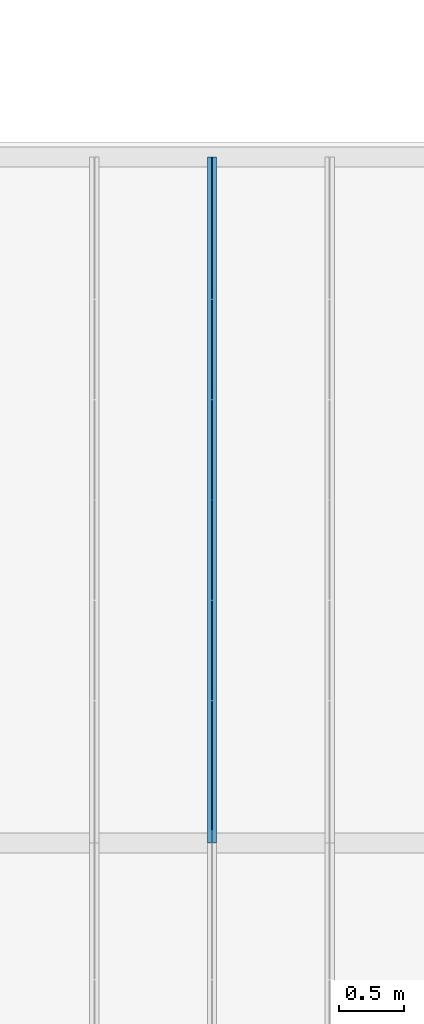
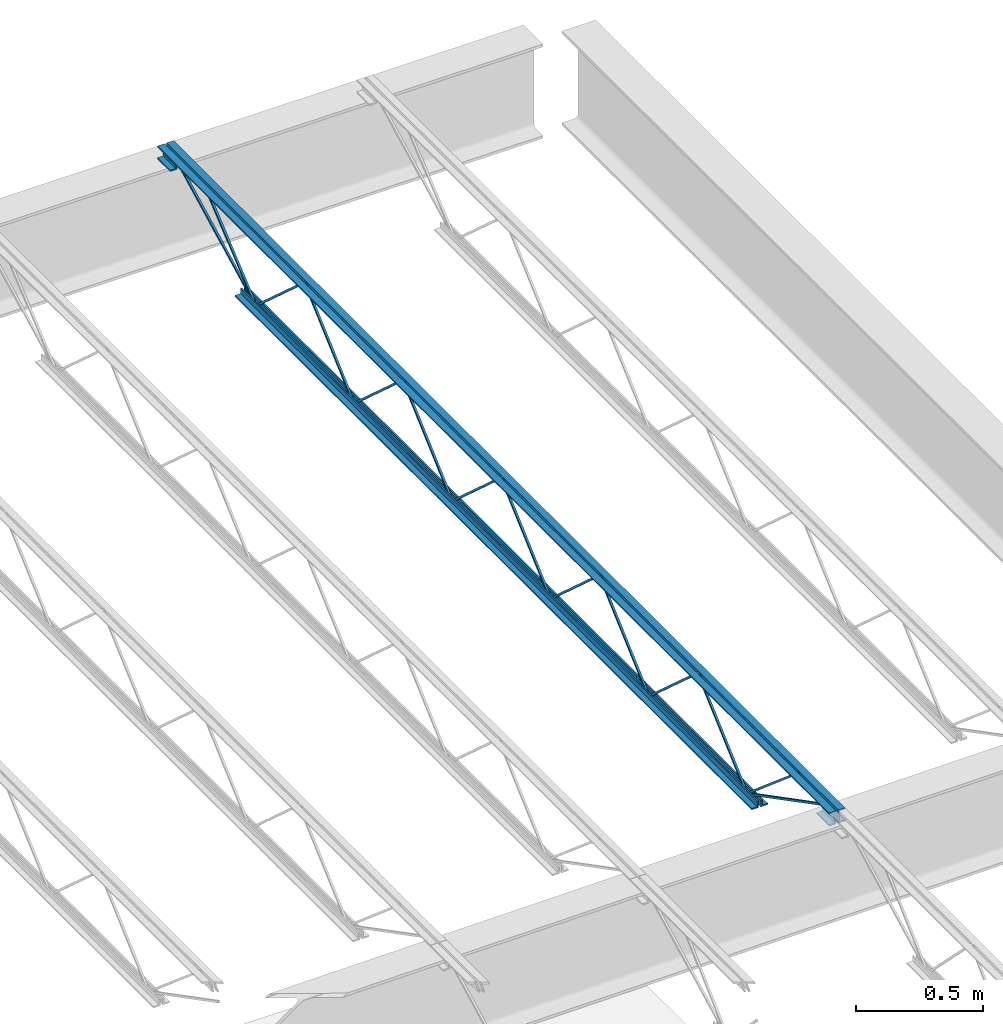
# One storey, part 74 of 75: 1 beam.
"""IFC2X3 building model written with IfcOpenShell, lengths in metres."""

from ifc_helpers import new_model, entity, si_unit, converted_unit, frame, origin, place, context, project, spatial, face_set, surface_model, element, save


model = new_model("IFC2X3")

# Units and contexts
model_context = context("Model", 3, precision=1e-09, world=origin())
plan_context = context("Plan", 3, precision=1e-09, world=origin())
ifc_project = project(units=[si_unit("LENGTHUNIT", "METRE"), si_unit("AREAUNIT", "SQUARE_METRE"), si_unit("VOLUMEUNIT", "CUBIC_METRE"), converted_unit("PLANEANGLEUNIT", "DEGREE", entity("IfcRatioMeasure", 0.01745329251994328), si_unit("PLANEANGLEUNIT", "RADIAN"), dimensions=[0, 0, 0, 0, 0, 0, 0]), si_unit("TIMEUNIT", "SECOND")], contexts=[model_context, plan_context])

# Site, building, storey
site_placement = place(None, origin())
site = spatial("IfcSite", under=ifc_project, at=site_placement, Name="Default", CompositionType="ELEMENT")
building_placement = place(site_placement, origin())
building = spatial("IfcBuilding", under=site, at=building_placement, CompositionType="ELEMENT")
storey_placement = place(building_placement, origin())
storey = spatial("IfcBuildingStorey", under=building, at=storey_placement, Name="First Floor", CompositionType="ELEMENT", Elevation=-3.531500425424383e-13)

# Beam
beam_placement = place(storey_placement, frame((-1.856749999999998, 44.78049999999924, 4.112000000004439), z_axis=(0.0, 0.0, 1.0), x_axis=(-1.0, 0.0, 0.0)))
element("IfcBeam", 1, at=beam_placement, inside=storey, Name="M_K-Series Bar Joist-Rod Web:14K1:14K1", ObjectType="M_K-Series Bar Joist-Rod Web:14K1", context=model_context, shape_type="SurfaceModel", body=[
    surface_model("IfcFaceBasedSurfaceModel", [(-0.0320000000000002, -2.266000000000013, 0.01110000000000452), (-0.04150000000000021, -2.266000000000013, 0.01110000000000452), (-0.04150000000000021, -2.266000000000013, 0.001600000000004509), (-0.0320000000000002, -2.266000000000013, 0.001600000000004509), (-0.04150000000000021, -2.264645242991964, 0.01110000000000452), (-0.0320000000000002, -2.264645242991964, 0.01110000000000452), (-0.04150000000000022, -2.26100475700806, 0.001600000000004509), (-0.04150000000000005, -1.878854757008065, 0.3449000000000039), (-0.04150000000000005, -1.876145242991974, 0.3449000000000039), (-0.04150000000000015, -1.493995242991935, 0.001600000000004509), (-0.04150000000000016, -1.489000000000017, 0.001600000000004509), (-0.04150000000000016, -1.489000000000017, 0.01110000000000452), (-0.04150000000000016, -1.490354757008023, 0.01110000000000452), (-0.04150000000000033, -1.872504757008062, 0.3544000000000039), (-0.04150000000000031, -1.882495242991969, 0.3544000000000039), (-0.03200000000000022, -2.26100475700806, 0.001600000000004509), (-0.03200000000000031, -1.878854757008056, 0.3449000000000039), (-0.03200000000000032, -1.876145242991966, 0.3449000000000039), (-0.03200000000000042, -1.493995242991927, 0.001600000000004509), (-0.03200000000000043, -1.489000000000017, 0.001600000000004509), (-0.03200000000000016, -1.489000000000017, 0.01110000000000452), (-0.03200000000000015, -1.490354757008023, 0.01110000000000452), (-0.03200000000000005, -1.872504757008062, 0.3544000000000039), (-0.03200000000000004, -1.882495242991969, 0.3544000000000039), (-0.03199999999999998, -3.04300000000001, 0.01110000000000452), (-0.04149999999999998, -3.04300000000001, 0.01110000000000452), (-0.04149999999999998, -3.04300000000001, 0.001600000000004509), (-0.03199999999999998, -3.04300000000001, 0.001600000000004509), (-0.04149999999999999, -3.041645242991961, 0.01110000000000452), (-0.03199999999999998, -3.041645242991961, 0.01110000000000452), (-0.04149999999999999, -3.038004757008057, 0.001600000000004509), (-0.04150000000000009, -2.655854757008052, 0.3449000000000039), (-0.0415000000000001, -2.653145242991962, 0.3449000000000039), (-0.0415000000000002, -2.270995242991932, 0.001600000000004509), (-0.04149999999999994, -2.266000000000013, 0.01110000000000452), (-0.04149999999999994, -2.26735475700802, 0.01110000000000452), (-0.04150000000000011, -2.649504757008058, 0.3544000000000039), (-0.04150000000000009, -2.659495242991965, 0.3544000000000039), (-0.03199999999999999, -3.038004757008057, 0.001600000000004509), (-0.03200000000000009, -2.655854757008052, 0.3449000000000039), (-0.03200000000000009, -2.653145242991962, 0.3449000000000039), (-0.0320000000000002, -2.270995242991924, 0.001600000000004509), (-0.0320000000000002, -2.26735475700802, 0.01110000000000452), (-0.0320000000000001, -2.649504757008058, 0.3544000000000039), (-0.03200000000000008, -2.659495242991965, 0.3544000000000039), (-0.03200000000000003, -3.820000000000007, 0.01110000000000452), (-0.04150000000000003, -3.820000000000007, 0.01110000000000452), (-0.04150000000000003, -3.820000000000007, 0.001600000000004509), (-0.03200000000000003, -3.820000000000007, 0.001600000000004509), (-0.04150000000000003, -3.818645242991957, 0.01110000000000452), (-0.03200000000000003, -3.818645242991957, 0.01110000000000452), (-0.04150000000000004, -3.815004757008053, 0.001600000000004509), (-0.04150000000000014, -3.432854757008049, 0.3449000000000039), (-0.04150000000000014, -3.430145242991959, 0.3449000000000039), (-0.04149999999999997, -3.04799524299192, 0.001600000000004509), (-0.04149999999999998, -3.043000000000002, 0.001600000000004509), (-0.04149999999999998, -3.044354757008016, 0.01110000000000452), (-0.04150000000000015, -3.426504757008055, 0.3544000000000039), (-0.04150000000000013, -3.436495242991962, 0.3544000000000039), (-0.03200000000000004, -3.815004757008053, 0.001600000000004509), (-0.03200000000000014, -3.432854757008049, 0.3449000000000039), (-0.03200000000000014, -3.430145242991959, 0.3449000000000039), (-0.03200000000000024, -3.04799524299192, 0.001600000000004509), (-0.03200000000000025, -3.04300000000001, 0.001600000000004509), (-0.03199999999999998, -3.043000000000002, 0.01110000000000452), (-0.03199999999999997, -3.044354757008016, 0.01110000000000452), (-0.03200000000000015, -3.426504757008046, 0.3544000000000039), (-0.03200000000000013, -3.436495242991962, 0.3544000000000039), (-0.03200000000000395, -1.489000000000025, 0.01109999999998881), (-0.04150000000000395, -1.489000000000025, 0.01109999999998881), (-0.04150000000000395, -1.489000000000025, 0.001599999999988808), (-0.03200000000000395, -1.489000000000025, 0.001599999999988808), (-0.04150000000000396, -1.487645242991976, 0.01109999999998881), (-0.03200000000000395, -1.487645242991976, 0.01109999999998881), (-0.04150000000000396, -1.484004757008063, 0.001599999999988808), (-0.04150000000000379, -1.101854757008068, 0.3448999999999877), (-0.0415000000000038, -1.099145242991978, 0.3448999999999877), (-0.0415000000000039, -0.7169952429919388, 0.001599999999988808), (-0.04150000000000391, -0.7120000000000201, 0.001599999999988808), (-0.04150000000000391, -0.7120000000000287, 0.01109999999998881), (-0.04150000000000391, -0.7133547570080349, 0.01109999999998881), (-0.04150000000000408, -1.095504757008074, 0.3543999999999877), (-0.04150000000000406, -1.10549524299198, 0.3543999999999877), (-0.03200000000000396, -1.484004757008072, 0.001599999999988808), (-0.03200000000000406, -1.101854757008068, 0.3448999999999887), (-0.03200000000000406, -1.099145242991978, 0.3448999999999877), (-0.03200000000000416, -0.7169952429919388, 0.001599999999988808), (-0.03200000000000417, -0.7120000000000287, 0.001599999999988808), (-0.0320000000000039, -0.7120000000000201, 0.01109999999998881), (-0.0320000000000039, -0.7133547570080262, 0.01109999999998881), (-0.0320000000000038, -1.095504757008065, 0.3543999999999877), (-0.03200000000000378, -1.105495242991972, 0.3543999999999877), (-0.03200000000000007, -4.597000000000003, 0.01110000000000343), (-0.04150000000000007, -4.597000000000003, 0.01110000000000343), (-0.04150000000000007, -4.597000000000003, 0.001600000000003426), (-0.03200000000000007, -4.597000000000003, 0.001600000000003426), (-0.04150000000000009, -4.595645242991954, 0.01110000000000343), (-0.03200000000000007, -4.595645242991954, 0.01110000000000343), (-0.04150000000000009, -4.592004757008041, 0.001600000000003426), (-0.04150000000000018, -4.209854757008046, 0.3449000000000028), (-0.0415000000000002, -4.207145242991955, 0.3449000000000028), (-0.04150000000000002, -3.824995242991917, 0.001600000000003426), (-0.04150000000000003, -3.819999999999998, 0.001600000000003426), (-0.04150000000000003, -3.820000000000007, 0.01110000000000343), (-0.04150000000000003, -3.821354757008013, 0.01110000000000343), (-0.0415000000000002, -4.203504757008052, 0.3544000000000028), (-0.04150000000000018, -4.213495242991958, 0.3544000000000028), (-0.03200000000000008, -4.592004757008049, 0.001600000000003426), (-0.03200000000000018, -4.209854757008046, 0.3449000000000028), (-0.03200000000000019, -4.207145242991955, 0.3449000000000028), (-0.03200000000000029, -3.824995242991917, 0.001600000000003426), (-0.0320000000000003, -3.820000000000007, 0.001600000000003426), (-0.03200000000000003, -3.819999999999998, 0.01110000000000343), (-0.03200000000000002, -3.821354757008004, 0.01110000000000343), (-0.0320000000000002, -4.203504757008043, 0.3544000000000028), (-0.03200000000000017, -4.213495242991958, 0.3544000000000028), (-0.04150000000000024, 0.0, 0.3560000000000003), (-0.07350000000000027, 0.0, 0.3560000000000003), (-0.07350000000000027, 0.0, 0.3494999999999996), (-0.04800000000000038, 0.0, 0.3494999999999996), (-0.04800000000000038, 0.0, 0.3239999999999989), (-0.04150000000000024, 0.0, 0.3239999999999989), (-0.03200000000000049, 0.0, 0.3560000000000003), (-0.03200000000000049, 0.0, 0.3239999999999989), (-0.02550000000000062, 0.0, 0.3239999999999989), (-0.02550000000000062, 0.0, 0.3494999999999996), (0.0, 0.0, 0.3494999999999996), (0.0, 0.0, 0.3560000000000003), (-0.04149999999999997, -5.309000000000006, 0.3560000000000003), (-0.0735, -5.309000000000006, 0.3560000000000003), (-0.0735, -5.309000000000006, 0.3494999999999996), (-0.04800000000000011, -5.309000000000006, 0.3494999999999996), (-0.04800000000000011, -5.309000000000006, 0.3239999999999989), (-0.04149999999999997, -5.309000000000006, 0.3239999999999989), (-0.03200000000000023, -5.309000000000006, 0.3560000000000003), (-0.03200000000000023, -5.309000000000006, 0.3239999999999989), (-0.02550000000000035, -5.309000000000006, 0.3239999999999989), (-0.02550000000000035, -5.309000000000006, 0.3494999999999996), (0.0, -5.309000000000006, 0.3494999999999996), (0.0, -5.309000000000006, 0.3560000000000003), (-0.0320000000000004, -5.20900000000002, 0.2924999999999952), (0.0, -5.20900000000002, 0.2924999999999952), (0.0, -5.20900000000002, 0.2989999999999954), (-0.02550000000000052, -5.20900000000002, 0.2989999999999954), (-0.02550000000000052, -5.20900000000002, 0.3239999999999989), (-0.0320000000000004, -5.20900000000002, 0.3239999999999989), (-0.07350000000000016, -5.20900000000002, 0.2924999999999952), (-0.04150000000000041, -5.20900000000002, 0.2924999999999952), (-0.04150000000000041, -5.20900000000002, 0.3239999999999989), (-0.04800000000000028, -5.20900000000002, 0.3239999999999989), (-0.04800000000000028, -5.20900000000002, 0.2989999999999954), (-0.07350000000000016, -5.20900000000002, 0.2989999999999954), (-0.03200000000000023, -5.309000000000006, 0.2924999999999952), (0.0, -5.309000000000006, 0.2924999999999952), (0.0, -5.309000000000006, 0.2989999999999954), (-0.02550000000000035, -5.309000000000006, 0.2989999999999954), (-0.0735, -5.309000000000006, 0.2924999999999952), (-0.04150000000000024, -5.309000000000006, 0.2924999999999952), (-0.04150000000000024, -5.309000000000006, 0.3239999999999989), (-0.04800000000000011, -5.309000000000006, 0.2989999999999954), (-0.0735, -5.309000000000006, 0.2989999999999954), (-0.04150000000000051, 0.0, 0.2924999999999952), (-0.04150000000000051, 0.0, 0.3239999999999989), (-0.04800000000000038, 0.0, 0.2989999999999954), (-0.07350000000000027, 0.0, 0.2989999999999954), (-0.07350000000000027, 0.0, 0.2924999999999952), (-0.03200000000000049, 0.0, 0.2924999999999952), (0.0, 0.0, 0.2924999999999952), (0.0, 0.0, 0.2989999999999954), (-0.02550000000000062, 0.0, 0.2989999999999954), (-0.04150000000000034, -0.1000000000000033, 0.2924999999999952), (-0.04150000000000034, -0.1000000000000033, 0.3239999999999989), (-0.04800000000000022, -0.1000000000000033, 0.3239999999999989), (-0.04800000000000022, -0.1000000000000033, 0.2989999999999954), (-0.0735000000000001, -0.1000000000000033, 0.2989999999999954), (-0.0735000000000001, -0.1000000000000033, 0.2924999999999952), (-0.03200000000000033, -0.1000000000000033, 0.2924999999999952), (0.0, -0.1000000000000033, 0.2924999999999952), (0.0, -0.1000000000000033, 0.2989999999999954), (-0.02550000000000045, -0.1000000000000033, 0.2989999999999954), (-0.02550000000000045, -0.1000000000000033, 0.3239999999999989), (-0.03200000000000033, -0.1000000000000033, 0.3239999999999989), (-0.04150000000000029, -0.6119999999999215, 0.0), (-0.04150000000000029, -0.6119999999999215, 0.03199999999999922), (-0.04800000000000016, -0.6119999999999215, 0.03199999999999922), (-0.04800000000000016, -0.6119999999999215, 0.006500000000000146), (-0.07350000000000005, -0.6119999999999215, 0.006500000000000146), (-0.07350000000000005, -0.6119999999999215, 0.0), (-0.03200000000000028, -0.6119999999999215, 0.0), (0.0, -0.6119999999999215, 0.0), (0.0, -0.6119999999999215, 0.006500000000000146), (-0.0255000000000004, -0.6119999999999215, 0.006500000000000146), (-0.0255000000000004, -0.6119999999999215, 0.03199999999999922), (-0.03200000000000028, -0.6119999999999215, 0.03199999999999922), (-0.04150000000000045, -4.696999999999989, 0.0), (-0.04150000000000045, -4.696999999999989, 0.03199999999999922), (-0.04800000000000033, -4.696999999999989, 0.03199999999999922), (-0.04800000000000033, -4.696999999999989, 0.006500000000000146), (-0.07350000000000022, -4.696999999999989, 0.006500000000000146), (-0.07350000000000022, -4.696999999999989, 0.0), (-0.03200000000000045, -4.696999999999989, 0.0), (0.0, -4.696999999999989, 0.0), (0.0, -4.696999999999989, 0.006500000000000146), (-0.02550000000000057, -4.696999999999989, 0.006500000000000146), (-0.02550000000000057, -4.696999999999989, 0.03199999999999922), (-0.03200000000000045, -4.696999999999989, 0.03199999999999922), (-0.03200000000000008, -4.594811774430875, 0.0105659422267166), (-0.04150000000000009, -4.594811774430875, 0.0105659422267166), (-0.04150000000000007, -4.599188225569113, 0.002134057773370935), (-0.03200000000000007, -4.599188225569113, 0.002134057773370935), (-0.03200000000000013, -5.207840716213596, 0.32875), (-0.03199999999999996, -5.308999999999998, 0.32875), (-0.03199999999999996, -5.308999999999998, 0.31925), (-0.03200000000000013, -5.210159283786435, 0.31925), (-0.04150000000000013, -5.210159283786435, 0.31925), (-0.04150000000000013, -5.207840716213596, 0.32875), (-0.04149999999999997, -5.308999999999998, 0.32875), (-0.04149999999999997, -5.309000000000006, 0.31925), (-0.0320000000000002, -5.005457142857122, 0.3417000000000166), (-0.0415000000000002, -5.005457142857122, 0.3417000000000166), (-0.0415000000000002, -5.005457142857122, 0.3322000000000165), (-0.0320000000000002, -5.005457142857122, 0.3322000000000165), (-0.04150000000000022, -4.991034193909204, 0.3417000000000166), (-0.03200000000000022, -4.991034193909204, 0.3417000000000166), (-0.04150000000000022, -4.994480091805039, 0.3322000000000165), (-0.04150000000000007, -4.600045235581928, 0.002704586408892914), (-0.04150000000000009, -4.593954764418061, 0.00999541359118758), (-0.03200000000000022, -4.994480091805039, 0.3322000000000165), (-0.03200000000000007, -4.600045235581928, 0.002704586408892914), (-0.03200000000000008, -4.593954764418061, 0.009995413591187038), (-0.03200000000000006, -0.09781177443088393, 0.3197840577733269), (-0.03200000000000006, -0.1021882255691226, 0.3282159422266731), (-0.04150000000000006, -0.1021882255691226, 0.3282159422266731), (-0.04150000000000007, -0.09781177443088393, 0.3197840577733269), (-0.03200000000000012, -0.7098117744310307, 0.002134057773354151), (-0.03200000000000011, -0.7141882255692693, 0.01056594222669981), (-0.04150000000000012, -0.7141882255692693, 0.01056594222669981), (-0.04150000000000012, -0.7098117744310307, 0.002134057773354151), (-0.03199999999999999, -0.3059055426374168, 0.3460340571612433), (-0.03199999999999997, -0.3120658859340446, 0.3532659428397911), (-0.04149999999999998, -0.3120658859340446, 0.3532659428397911), (-0.04149999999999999, -0.3059055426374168, 0.3460340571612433), (-0.03200000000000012, -0.7089198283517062, 0.002734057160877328), (-0.03200000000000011, -0.7150801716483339, 0.009965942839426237), (-0.04150000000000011, -0.7150801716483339, 0.009965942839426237), (-0.04150000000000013, -0.7089198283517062, 0.002734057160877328)], [face_set([[[0, 1, 2, 3]], [[1, 4, 5, 0]], [[2, 6, 7, 8, 9, 10, 11, 12, 13, 14, 4, 1]], [[3, 2, 6, 15]], [[0, 3, 15, 16, 17, 18, 19, 20, 21, 22, 23, 5]], [[4, 5, 23, 14]], [[15, 16, 7, 6]], [[14, 13, 22, 23]], [[16, 7, 8, 17]], [[13, 12, 21, 22]], [[17, 8, 9, 18]], [[20, 11, 10, 19]], [[12, 11, 20, 21]], [[18, 9, 10, 19]]]), face_set([[[24, 25, 26, 27]], [[25, 28, 29, 24]], [[26, 30, 31, 32, 33, 2, 34, 35, 36, 37, 28, 25]], [[27, 26, 30, 38]], [[24, 27, 38, 39, 40, 41, 3, 0, 42, 43, 44, 29]], [[28, 29, 44, 37]], [[38, 39, 31, 30]], [[37, 36, 43, 44]], [[39, 31, 32, 40]], [[36, 35, 42, 43]], [[40, 32, 33, 41]], [[0, 34, 2, 3]], [[35, 34, 0, 42]], [[41, 33, 2, 3]]]), face_set([[[45, 46, 47, 48]], [[46, 49, 50, 45]], [[47, 51, 52, 53, 54, 55, 25, 56, 57, 58, 49, 46]], [[48, 47, 51, 59]], [[45, 48, 59, 60, 61, 62, 63, 64, 65, 66, 67, 50]], [[49, 50, 67, 58]], [[59, 60, 52, 51]], [[58, 57, 66, 67]], [[60, 52, 53, 61]], [[57, 56, 65, 66]], [[61, 53, 54, 62]], [[64, 25, 55, 63]], [[56, 25, 64, 65]], [[62, 54, 55, 63]]]), face_set([[[68, 69, 70, 71]], [[69, 72, 73, 68]], [[70, 74, 75, 76, 77, 78, 79, 80, 81, 82, 72, 69]], [[71, 70, 74, 83]], [[68, 71, 83, 84, 85, 86, 87, 88, 89, 90, 91, 73]], [[72, 73, 91, 82]], [[83, 84, 75, 74]], [[82, 81, 90, 91]], [[84, 75, 76, 85]], [[81, 80, 89, 90]], [[85, 76, 77, 86]], [[88, 79, 78, 87]], [[80, 79, 88, 89]], [[86, 77, 78, 87]]]), face_set([[[92, 93, 94, 95]], [[93, 96, 97, 92]], [[94, 98, 99, 100, 101, 102, 103, 104, 105, 106, 96, 93]], [[95, 94, 98, 107]], [[92, 95, 107, 108, 109, 110, 111, 112, 113, 114, 115, 97]], [[96, 97, 115, 106]], [[107, 108, 99, 98]], [[106, 105, 114, 115]], [[108, 99, 100, 109]], [[105, 104, 113, 114]], [[109, 100, 101, 110]], [[112, 103, 102, 111]], [[104, 103, 112, 113]], [[110, 101, 102, 111]]]), face_set([[[116, 117, 118, 119, 120, 121]], [[122, 123, 124, 125, 126, 127]], [[128, 129, 130, 131, 132, 133]], [[134, 135, 136, 137, 138, 139]], [[121, 116, 128, 133]], [[120, 121, 133, 132]], [[119, 131, 132, 120]], [[118, 119, 131, 130]], [[117, 129, 130, 118]], [[116, 128, 129, 117]], [[127, 139, 134, 122]], [[126, 127, 139, 138]], [[125, 126, 138, 137]], [[124, 125, 137, 136]], [[123, 124, 136, 135]], [[122, 134, 135, 123]]]), face_set([[[140, 141, 142, 143, 144, 145]], [[146, 147, 148, 149, 150, 151]], [[152, 153, 154, 155, 136, 135]], [[156, 157, 158, 132, 159, 160]], [[145, 135, 152, 140]], [[144, 136, 135, 145]], [[143, 144, 136, 155]], [[142, 154, 155, 143]], [[141, 142, 154, 153]], [[140, 141, 153, 152]], [[151, 160, 156, 146]], [[150, 159, 160, 151]], [[149, 132, 159, 150]], [[148, 158, 132, 149]], [[147, 148, 158, 157]], [[146, 147, 157, 156]]]), face_set([[[161, 162, 120, 163, 164, 165]], [[166, 167, 168, 169, 124, 123]], [[170, 171, 172, 173, 174, 175]], [[176, 177, 178, 179, 180, 181]], [[165, 161, 170, 175]], [[164, 174, 175, 165]], [[163, 173, 174, 164]], [[120, 172, 173, 163]], [[162, 171, 172, 120]], [[161, 162, 171, 170]], [[123, 181, 176, 166]], [[124, 180, 181, 123]], [[169, 124, 180, 179]], [[168, 178, 179, 169]], [[167, 168, 178, 177]], [[166, 167, 177, 176]]]), face_set([[[182, 183, 184, 185, 186, 187]], [[188, 189, 190, 191, 192, 193]], [[194, 195, 196, 197, 198, 199]], [[200, 201, 202, 203, 204, 205]], [[187, 182, 194, 199]], [[186, 198, 199, 187]], [[185, 197, 198, 186]], [[184, 196, 197, 185]], [[183, 195, 196, 184]], [[182, 183, 195, 194]], [[193, 205, 200, 188]], [[192, 204, 205, 193]], [[191, 192, 204, 203]], [[190, 202, 203, 191]], [[189, 190, 202, 201]], [[188, 189, 201, 200]]]), face_set([[[206, 207, 208, 209]], [[209, 206, 210, 211, 212, 213]], [[208, 209, 213, 214]], [[207, 215, 216, 217, 214, 208]], [[206, 210, 215, 207]], [[211, 216, 217, 212]], [[214, 213, 212, 217]], [[210, 211, 216, 215]]]), face_set([[[218, 219, 220, 221]], [[219, 222, 223, 218]], [[220, 224, 225, 226, 222, 219]], [[221, 220, 224, 227]], [[218, 221, 227, 228, 229, 223]], [[229, 226, 225, 228]], [[222, 226, 229, 223]], [[227, 224, 225, 228]]]), face_set([[[230, 231, 232, 233]], [[234, 235, 236, 237]], [[233, 237, 234, 230]], [[232, 236, 237, 233]], [[231, 232, 236, 235]], [[230, 231, 235, 234]]]), face_set([[[238, 239, 240, 241]], [[242, 243, 244, 245]], [[241, 245, 242, 238]], [[240, 244, 245, 241]], [[239, 240, 244, 243]], [[238, 239, 243, 242]]])]),
])

save(model, "model.ifc")
